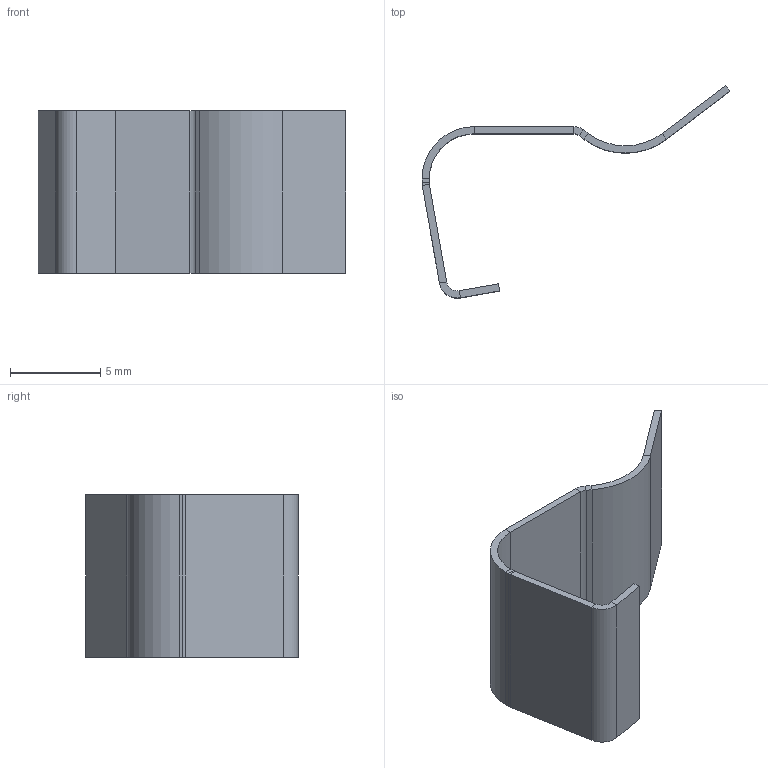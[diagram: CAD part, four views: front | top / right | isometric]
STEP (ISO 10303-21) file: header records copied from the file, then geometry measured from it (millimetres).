
FILE_DESCRIPTION (( 'STEP AP214' ), '1' );
FILE_NAME ('MC725.STEP', '2004-04-06T14:19:20', ( '' ), ( '' ), 'SwSTEP 2.0', 'SolidWorks 2002349', '' );
FILE_SCHEMA (( 'AUTOMOTIVE_DESIGN' ));
Length unit declared in the file: millimetre
Products named in the file (1): MC725
Bounding box: 17.05 x 11.76 x 9 mm (x, y, z)
Volume: 103.9 mm3; surface area: 549.6 mm2
Topology: 1 solids, 1 shells, 46 faces, 92 edges, 48 vertices
Faces by surface type: plane 36, cylinder 10
Entity records: 1159 total; most frequent: DIRECTION 206, CARTESIAN_POINT 187, ORIENTED_EDGE 184, EDGE_CURVE 92, LINE 72, VECTOR 72, AXIS2_PLACEMENT_3D 67, VERTEX_POINT 48
